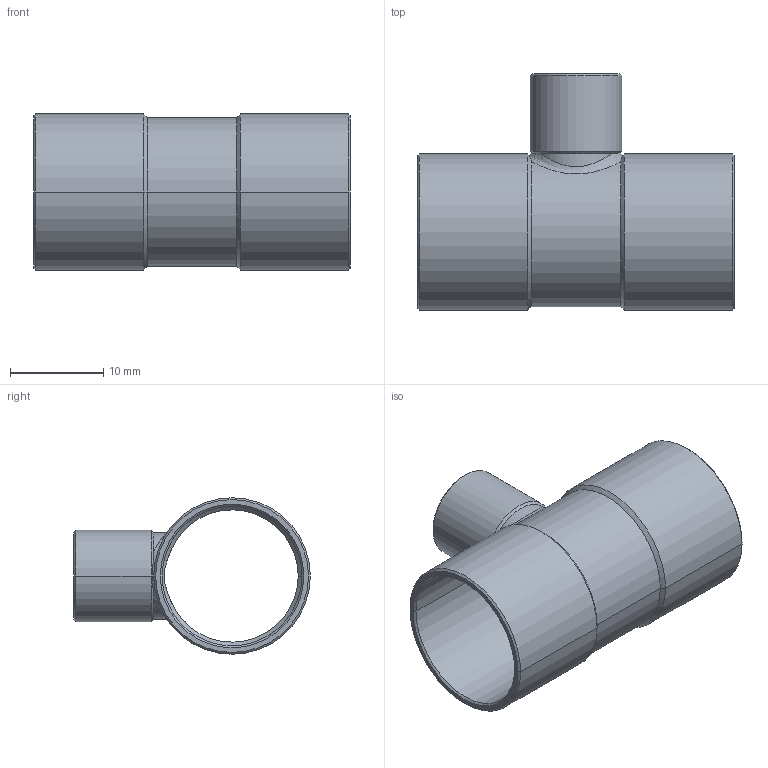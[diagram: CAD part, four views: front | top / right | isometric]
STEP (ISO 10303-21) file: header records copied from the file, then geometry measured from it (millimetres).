
FILE_DESCRIPTION((''),'2;1');
FILE_NAME('P:\Bouwmaten\z-maattekeningen 3D\5000\5130\513015815.stp','2005-10-26T11:53:06',('Kris'),(''),'Autodesk Inventor 8','Autodesk Inventor 8','');
FILE_SCHEMA(('AUTOMOTIVE_DESIGN { 1 0 10303 214 1 1 1 1 }'));
Length unit declared in the file: millimetre
Products named in the file (1): 513015815
Bounding box: 34 x 25.4 x 16.8 mm (x, y, z)
Volume: 1688.2 mm3; surface area: 3891.6 mm2
Topology: 1 solids, 1 shells, 49 faces, 116 edges, 68 vertices
Faces by surface type: cone 20, cylinder 16, bspline 10, plane 3
Entity records: 1992 total; most frequent: CARTESIAN_POINT 889, ORIENTED_EDGE 232, DIRECTION 216, EDGE_CURVE 116, AXIS2_PLACEMENT_3D 89, VERTEX_POINT 68, EDGE_LOOP 52, CIRCLE 49
